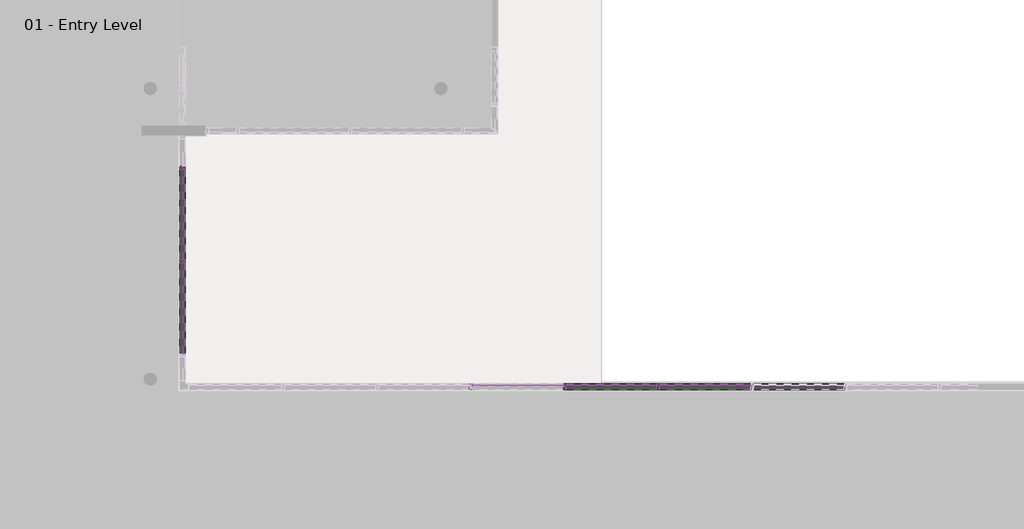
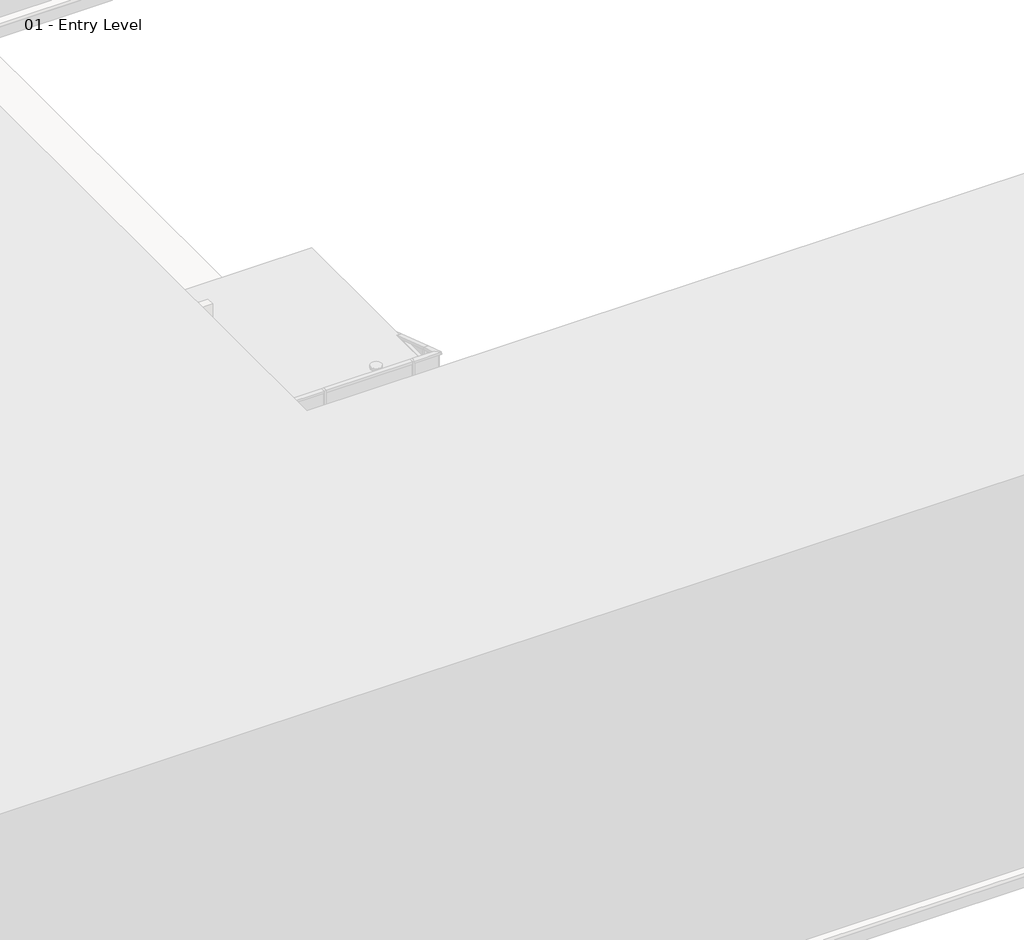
# One storey, part 10 of 35: 87 members, 45 plates.
"""IFC4 building model written with IfcOpenShell, lengths in millimetres."""

from ifc_helpers import new_model, si_unit, origin, place, context, project, spatial, transform, mapped, element, save
from components import member_2b49869a, member_391b434c, member_9e90ae50, member_e5d39754, system_panel_glazed_1b9d6098, system_panel_glazed_70da479d

model = new_model("IFC4")

# Units and contexts
model_context = context("Model", 3, world=origin())
ifc_project = project(units=[si_unit("LENGTHUNIT", "METRE", prefix="MILLI")], contexts=[model_context])

# Site, building, storey
site = spatial("IfcSite", under=ifc_project)
building = spatial("IfcBuilding", under=site)
storey = spatial("IfcBuildingStorey", under=building, Name="01 - Entry Level", Elevation=0.0)

# Members
placement = place(None, origin())
member_shape = member_2b49869a(model_context)
element("IfcMember", 1, ObjectType="Rectangular Mullion : 2.5\" x 5\" rectangular", at=placement, inside=storey, context=model_context, shape_type="MappedRepresentation", body=[
    mapped(member_shape, transform((27496.4207476, 11001.3, 9753.6), x_axis=(-1.0, 0.0, 0.0), y_axis=(0.0, 1.0, 0.0), z_axis=(0.0, 0.0, -1.0))),
])
element("IfcMember", 2, ObjectType="Rectangular Mullion : 2.5\" x 5\" rectangular", at=placement, inside=storey, context=model_context, shape_type="MappedRepresentation", body=[
    mapped(member_shape, transform((25464.4207476, 11001.3, 9753.6), x_axis=(-1.0, 0.0, 0.0), y_axis=(0.0, 1.0, 0.0), z_axis=(0.0, 0.0, -1.0))),
])
element("IfcMember", 3, ObjectType="Rectangular Mullion : 2.5\" x 5\" rectangular", at=placement, inside=storey, context=model_context, shape_type="MappedRepresentation", body=[
    mapped(member_shape, transform((23432.4207476, 11001.3, 9753.6), x_axis=(-1.0, 0.0, 0.0), y_axis=(0.0, 1.0, 0.0), z_axis=(0.0, 0.0, -1.0))),
])
element("IfcMember", 4, ObjectType="Rectangular Mullion : 2.5\" x 5\" rectangular", at=placement, inside=storey, context=model_context, shape_type="MappedRepresentation", body=[
    mapped(member_shape, transform((17184.0207476, 13719.1, 9753.6), x_axis=(0.0, 1.0, 0.0), y_axis=(1.0, 0.0, 0.0), z_axis=(0.0, 0.0, -1.0))),
])
element("IfcMember", 5, ObjectType="Rectangular Mullion : 2.5\" x 5\" rectangular", at=placement, inside=storey, context=model_context, shape_type="MappedRepresentation", body=[
    mapped(member_shape, transform((17184.0207476, 15751.1, 9753.6), x_axis=(0.0, 1.0, 0.0), y_axis=(1.0, 0.0, 0.0), z_axis=(0.0, 0.0, -1.0))),
])
member_2_shape = member_391b434c(model_context)
element("IfcMember", 6, ObjectType="Rectangular Mullion : 2.5\" x 5\" rectangular", at=placement, inside=storey, context=model_context, shape_type="MappedRepresentation", body=[
    mapped(member_2_shape, transform((29560.1707476, 11001.3, 10972.8), x_axis=(0.0, 0.0, 1.0), y_axis=(0.0, 1.0, 0.0), z_axis=(-1.0, 0.0, 0.0))),
])
element("IfcMember", 7, ObjectType="Rectangular Mullion : 2.5\" x 5\" rectangular", at=placement, inside=storey, context=model_context, shape_type="MappedRepresentation", body=[
    mapped(member_2_shape, transform((27528.1707476, 11001.3, 10972.8), x_axis=(0.0, 0.0, 1.0), y_axis=(0.0, 1.0, 0.0), z_axis=(-1.0, 0.0, 0.0))),
])
element("IfcMember", 8, ObjectType="Rectangular Mullion : 2.5\" x 5\" rectangular", at=placement, inside=storey, context=model_context, shape_type="MappedRepresentation", body=[
    mapped(member_2_shape, transform((25496.1707476, 11001.3, 10972.8), x_axis=(0.0, 0.0, 1.0), y_axis=(0.0, 1.0, 0.0), z_axis=(-1.0, 0.0, 0.0))),
])
element("IfcMember", 9, ObjectType="Rectangular Mullion : 2.5\" x 5\" rectangular", at=placement, inside=storey, context=model_context, shape_type="MappedRepresentation", body=[
    mapped(member_2_shape, transform((17184.0207476, 13687.35, 10972.8), x_axis=(0.0, 0.0, 1.0), y_axis=(1.0, 0.0, 0.0), z_axis=(0.0, 1.0, 0.0))),
])
element("IfcMember", 10, ObjectType="Rectangular Mullion : 2.5\" x 5\" rectangular", at=placement, inside=storey, context=model_context, shape_type="MappedRepresentation", body=[
    mapped(member_2_shape, transform((17184.0207476, 15719.35, 10972.8), x_axis=(0.0, 0.0, 1.0), y_axis=(1.0, 0.0, 0.0), z_axis=(0.0, 1.0, 0.0))),
])
element("IfcMember", 11, ObjectType="Rectangular Mullion : 2.5\" x 5\" rectangular", at=placement, inside=storey, context=model_context, shape_type="MappedRepresentation", body=[
    mapped(member_2_shape, transform((29496.6707476, 11001.3, 0.0), x_axis=(0.0, 0.0, -1.0), y_axis=(0.0, 1.0, 0.0), z_axis=(1.0, 0.0, 0.0))),
])
element("IfcMember", 12, ObjectType="Rectangular Mullion : 2.5\" x 5\" rectangular", at=placement, inside=storey, context=model_context, shape_type="MappedRepresentation", body=[
    mapped(member_2_shape, transform((27464.6707476, 11001.3, 0.0), x_axis=(0.0, 0.0, -1.0), y_axis=(0.0, 1.0, 0.0), z_axis=(1.0, 0.0, 0.0))),
])
element("IfcMember", 13, ObjectType="Rectangular Mullion : 2.5\" x 5\" rectangular", at=placement, inside=storey, context=model_context, shape_type="MappedRepresentation", body=[
    mapped(member_2_shape, transform((25432.6707476, 11001.3, 0.0), x_axis=(0.0, 0.0, -1.0), y_axis=(0.0, 1.0, 0.0), z_axis=(1.0, 0.0, 0.0))),
])
element("IfcMember", 14, ObjectType="Rectangular Mullion : 2.5\" x 5\" rectangular", at=placement, inside=storey, context=model_context, shape_type="MappedRepresentation", body=[
    mapped(member_2_shape, transform((17184.0207476, 13750.85, 0.0), x_axis=(0.0, 0.0, -1.0), y_axis=(1.0, 0.0, 0.0), z_axis=(0.0, -1.0, 0.0))),
])
member_3_shape = member_9e90ae50(model_context)
element("IfcMember", 15, ObjectType="Rectangular Mullion : 2.5\" x 5\" rectangular", at=placement, inside=storey, context=model_context, shape_type="MappedRepresentation", body=[
    mapped(member_3_shape, transform((29560.1707476, 11001.3, 1219.2), x_axis=(0.0, 0.0, 1.0), y_axis=(0.0, 1.0, 0.0), z_axis=(-1.0, 0.0, 0.0))),
])
element("IfcMember", 16, ObjectType="Rectangular Mullion : 2.5\" x 5\" rectangular", at=placement, inside=storey, context=model_context, shape_type="MappedRepresentation", body=[
    mapped(member_3_shape, transform((27528.1707476, 11001.3, 1219.2), x_axis=(0.0, 0.0, 1.0), y_axis=(0.0, 1.0, 0.0), z_axis=(-1.0, 0.0, 0.0))),
])
element("IfcMember", 17, ObjectType="Rectangular Mullion : 2.5\" x 5\" rectangular", at=placement, inside=storey, context=model_context, shape_type="MappedRepresentation", body=[
    mapped(member_3_shape, transform((25496.1707476, 11001.3, 1219.2), x_axis=(0.0, 0.0, 1.0), y_axis=(0.0, 1.0, 0.0), z_axis=(-1.0, 0.0, 0.0))),
])
element("IfcMember", 18, ObjectType="Rectangular Mullion : 2.5\" x 5\" rectangular", at=placement, inside=storey, context=model_context, shape_type="MappedRepresentation", body=[
    mapped(member_3_shape, transform((29560.1707476, 11001.3, 2438.4), x_axis=(0.0, 0.0, 1.0), y_axis=(0.0, 1.0, 0.0), z_axis=(-1.0, 0.0, 0.0))),
])
element("IfcMember", 19, ObjectType="Rectangular Mullion : 2.5\" x 5\" rectangular", at=placement, inside=storey, context=model_context, shape_type="MappedRepresentation", body=[
    mapped(member_3_shape, transform((27528.1707476, 11001.3, 2438.4), x_axis=(0.0, 0.0, 1.0), y_axis=(0.0, 1.0, 0.0), z_axis=(-1.0, 0.0, 0.0))),
])
element("IfcMember", 20, ObjectType="Rectangular Mullion : 2.5\" x 5\" rectangular", at=placement, inside=storey, context=model_context, shape_type="MappedRepresentation", body=[
    mapped(member_3_shape, transform((25496.1707476, 11001.3, 2438.4), x_axis=(0.0, 0.0, 1.0), y_axis=(0.0, 1.0, 0.0), z_axis=(-1.0, 0.0, 0.0))),
])
element("IfcMember", 21, ObjectType="Rectangular Mullion : 2.5\" x 5\" rectangular", at=placement, inside=storey, context=model_context, shape_type="MappedRepresentation", body=[
    mapped(member_3_shape, transform((29560.1707476, 11001.3, 3657.6), x_axis=(0.0, 0.0, 1.0), y_axis=(0.0, 1.0, 0.0), z_axis=(-1.0, 0.0, 0.0))),
])
element("IfcMember", 22, ObjectType="Rectangular Mullion : 2.5\" x 5\" rectangular", at=placement, inside=storey, context=model_context, shape_type="MappedRepresentation", body=[
    mapped(member_3_shape, transform((27528.1707476, 11001.3, 3657.6), x_axis=(0.0, 0.0, 1.0), y_axis=(0.0, 1.0, 0.0), z_axis=(-1.0, 0.0, 0.0))),
])
element("IfcMember", 23, ObjectType="Rectangular Mullion : 2.5\" x 5\" rectangular", at=placement, inside=storey, context=model_context, shape_type="MappedRepresentation", body=[
    mapped(member_3_shape, transform((25496.1707476, 11001.3, 3657.6), x_axis=(0.0, 0.0, 1.0), y_axis=(0.0, 1.0, 0.0), z_axis=(-1.0, 0.0, 0.0))),
])
element("IfcMember", 24, ObjectType="Rectangular Mullion : 2.5\" x 5\" rectangular", at=placement, inside=storey, context=model_context, shape_type="MappedRepresentation", body=[
    mapped(member_3_shape, transform((29560.1707476, 11001.3, 4876.8), x_axis=(0.0, 0.0, 1.0), y_axis=(0.0, 1.0, 0.0), z_axis=(-1.0, 0.0, 0.0))),
])
element("IfcMember", 25, ObjectType="Rectangular Mullion : 2.5\" x 5\" rectangular", at=placement, inside=storey, context=model_context, shape_type="MappedRepresentation", body=[
    mapped(member_3_shape, transform((27528.1707476, 11001.3, 4876.8), x_axis=(0.0, 0.0, 1.0), y_axis=(0.0, 1.0, 0.0), z_axis=(-1.0, 0.0, 0.0))),
])
element("IfcMember", 26, ObjectType="Rectangular Mullion : 2.5\" x 5\" rectangular", at=placement, inside=storey, context=model_context, shape_type="MappedRepresentation", body=[
    mapped(member_3_shape, transform((25496.1707476, 11001.3, 4876.8), x_axis=(0.0, 0.0, 1.0), y_axis=(0.0, 1.0, 0.0), z_axis=(-1.0, 0.0, 0.0))),
])
element("IfcMember", 27, ObjectType="Rectangular Mullion : 2.5\" x 5\" rectangular", at=placement, inside=storey, context=model_context, shape_type="MappedRepresentation", body=[
    mapped(member_3_shape, transform((29560.1707476, 11001.3, 6096.0), x_axis=(0.0, 0.0, 1.0), y_axis=(0.0, 1.0, 0.0), z_axis=(-1.0, 0.0, 0.0))),
])
element("IfcMember", 28, ObjectType="Rectangular Mullion : 2.5\" x 5\" rectangular", at=placement, inside=storey, context=model_context, shape_type="MappedRepresentation", body=[
    mapped(member_3_shape, transform((27528.1707476, 11001.3, 6096.0), x_axis=(0.0, 0.0, 1.0), y_axis=(0.0, 1.0, 0.0), z_axis=(-1.0, 0.0, 0.0))),
])
element("IfcMember", 29, ObjectType="Rectangular Mullion : 2.5\" x 5\" rectangular", at=placement, inside=storey, context=model_context, shape_type="MappedRepresentation", body=[
    mapped(member_3_shape, transform((25496.1707476, 11001.3, 6096.0), x_axis=(0.0, 0.0, 1.0), y_axis=(0.0, 1.0, 0.0), z_axis=(-1.0, 0.0, 0.0))),
])
element("IfcMember", 30, ObjectType="Rectangular Mullion : 2.5\" x 5\" rectangular", at=placement, inside=storey, context=model_context, shape_type="MappedRepresentation", body=[
    mapped(member_3_shape, transform((29560.1707476, 11001.3, 7315.2), x_axis=(0.0, 0.0, 1.0), y_axis=(0.0, 1.0, 0.0), z_axis=(-1.0, 0.0, 0.0))),
])
element("IfcMember", 31, ObjectType="Rectangular Mullion : 2.5\" x 5\" rectangular", at=placement, inside=storey, context=model_context, shape_type="MappedRepresentation", body=[
    mapped(member_3_shape, transform((27528.1707476, 11001.3, 7315.2), x_axis=(0.0, 0.0, 1.0), y_axis=(0.0, 1.0, 0.0), z_axis=(-1.0, 0.0, 0.0))),
])
element("IfcMember", 32, ObjectType="Rectangular Mullion : 2.5\" x 5\" rectangular", at=placement, inside=storey, context=model_context, shape_type="MappedRepresentation", body=[
    mapped(member_3_shape, transform((25496.1707476, 11001.3, 7315.2), x_axis=(0.0, 0.0, 1.0), y_axis=(0.0, 1.0, 0.0), z_axis=(-1.0, 0.0, 0.0))),
])
element("IfcMember", 33, ObjectType="Rectangular Mullion : 2.5\" x 5\" rectangular", at=placement, inside=storey, context=model_context, shape_type="MappedRepresentation", body=[
    mapped(member_3_shape, transform((29560.1707476, 11001.3, 8534.4), x_axis=(0.0, 0.0, 1.0), y_axis=(0.0, 1.0, 0.0), z_axis=(-1.0, 0.0, 0.0))),
])
element("IfcMember", 34, ObjectType="Rectangular Mullion : 2.5\" x 5\" rectangular", at=placement, inside=storey, context=model_context, shape_type="MappedRepresentation", body=[
    mapped(member_3_shape, transform((27528.1707476, 11001.3, 8534.4), x_axis=(0.0, 0.0, 1.0), y_axis=(0.0, 1.0, 0.0), z_axis=(-1.0, 0.0, 0.0))),
])
element("IfcMember", 35, ObjectType="Rectangular Mullion : 2.5\" x 5\" rectangular", at=placement, inside=storey, context=model_context, shape_type="MappedRepresentation", body=[
    mapped(member_3_shape, transform((25496.1707476, 11001.3, 8534.4), x_axis=(0.0, 0.0, 1.0), y_axis=(0.0, 1.0, 0.0), z_axis=(-1.0, 0.0, 0.0))),
])
element("IfcMember", 36, ObjectType="Rectangular Mullion : 2.5\" x 5\" rectangular", at=placement, inside=storey, context=model_context, shape_type="MappedRepresentation", body=[
    mapped(member_3_shape, transform((27528.1707476, 11001.3, 9753.6), x_axis=(0.0, 0.0, 1.0), y_axis=(0.0, 1.0, 0.0), z_axis=(-1.0, 0.0, 0.0))),
])
element("IfcMember", 37, ObjectType="Rectangular Mullion : 2.5\" x 5\" rectangular", at=placement, inside=storey, context=model_context, shape_type="MappedRepresentation", body=[
    mapped(member_3_shape, transform((25496.1707476, 11001.3, 9753.6), x_axis=(0.0, 0.0, 1.0), y_axis=(0.0, 1.0, 0.0), z_axis=(-1.0, 0.0, 0.0))),
])
element("IfcMember", 38, ObjectType="Rectangular Mullion : 2.5\" x 5\" rectangular", at=placement, inside=storey, context=model_context, shape_type="MappedRepresentation", body=[
    mapped(member_3_shape, transform((17184.0207476, 13687.35, 1219.2), x_axis=(0.0, 0.0, 1.0), y_axis=(1.0, 0.0, 0.0), z_axis=(0.0, 1.0, 0.0))),
])
element("IfcMember", 39, ObjectType="Rectangular Mullion : 2.5\" x 5\" rectangular", at=placement, inside=storey, context=model_context, shape_type="MappedRepresentation", body=[
    mapped(member_3_shape, transform((17184.0207476, 15719.35, 1219.2), x_axis=(0.0, 0.0, 1.0), y_axis=(1.0, 0.0, 0.0), z_axis=(0.0, 1.0, 0.0))),
])
element("IfcMember", 40, ObjectType="Rectangular Mullion : 2.5\" x 5\" rectangular", at=placement, inside=storey, context=model_context, shape_type="MappedRepresentation", body=[
    mapped(member_3_shape, transform((17184.0207476, 13687.35, 2438.4), x_axis=(0.0, 0.0, 1.0), y_axis=(1.0, 0.0, 0.0), z_axis=(0.0, 1.0, 0.0))),
])
element("IfcMember", 41, ObjectType="Rectangular Mullion : 2.5\" x 5\" rectangular", at=placement, inside=storey, context=model_context, shape_type="MappedRepresentation", body=[
    mapped(member_3_shape, transform((17184.0207476, 15719.35, 2438.4), x_axis=(0.0, 0.0, 1.0), y_axis=(1.0, 0.0, 0.0), z_axis=(0.0, 1.0, 0.0))),
])
element("IfcMember", 42, ObjectType="Rectangular Mullion : 2.5\" x 5\" rectangular", at=placement, inside=storey, context=model_context, shape_type="MappedRepresentation", body=[
    mapped(member_3_shape, transform((17184.0207476, 13687.35, 3657.6), x_axis=(0.0, 0.0, 1.0), y_axis=(1.0, 0.0, 0.0), z_axis=(0.0, 1.0, 0.0))),
])
element("IfcMember", 43, ObjectType="Rectangular Mullion : 2.5\" x 5\" rectangular", at=placement, inside=storey, context=model_context, shape_type="MappedRepresentation", body=[
    mapped(member_3_shape, transform((17184.0207476, 15719.35, 3657.6), x_axis=(0.0, 0.0, 1.0), y_axis=(1.0, 0.0, 0.0), z_axis=(0.0, 1.0, 0.0))),
])
element("IfcMember", 44, ObjectType="Rectangular Mullion : 2.5\" x 5\" rectangular", at=placement, inside=storey, context=model_context, shape_type="MappedRepresentation", body=[
    mapped(member_3_shape, transform((17184.0207476, 13687.35, 4876.8), x_axis=(0.0, 0.0, 1.0), y_axis=(1.0, 0.0, 0.0), z_axis=(0.0, 1.0, 0.0))),
])
element("IfcMember", 45, ObjectType="Rectangular Mullion : 2.5\" x 5\" rectangular", at=placement, inside=storey, context=model_context, shape_type="MappedRepresentation", body=[
    mapped(member_3_shape, transform((17184.0207476, 15719.35, 4876.8), x_axis=(0.0, 0.0, 1.0), y_axis=(1.0, 0.0, 0.0), z_axis=(0.0, 1.0, 0.0))),
])
element("IfcMember", 46, ObjectType="Rectangular Mullion : 2.5\" x 5\" rectangular", at=placement, inside=storey, context=model_context, shape_type="MappedRepresentation", body=[
    mapped(member_3_shape, transform((17184.0207476, 13687.35, 6096.0), x_axis=(0.0, 0.0, 1.0), y_axis=(1.0, 0.0, 0.0), z_axis=(0.0, 1.0, 0.0))),
])
element("IfcMember", 47, ObjectType="Rectangular Mullion : 2.5\" x 5\" rectangular", at=placement, inside=storey, context=model_context, shape_type="MappedRepresentation", body=[
    mapped(member_3_shape, transform((17184.0207476, 15719.35, 6096.0), x_axis=(0.0, 0.0, 1.0), y_axis=(1.0, 0.0, 0.0), z_axis=(0.0, 1.0, 0.0))),
])
element("IfcMember", 48, ObjectType="Rectangular Mullion : 2.5\" x 5\" rectangular", at=placement, inside=storey, context=model_context, shape_type="MappedRepresentation", body=[
    mapped(member_3_shape, transform((17184.0207476, 13687.35, 7315.2), x_axis=(0.0, 0.0, 1.0), y_axis=(1.0, 0.0, 0.0), z_axis=(0.0, 1.0, 0.0))),
])
element("IfcMember", 49, ObjectType="Rectangular Mullion : 2.5\" x 5\" rectangular", at=placement, inside=storey, context=model_context, shape_type="MappedRepresentation", body=[
    mapped(member_3_shape, transform((17184.0207476, 15719.35, 7315.2), x_axis=(0.0, 0.0, 1.0), y_axis=(1.0, 0.0, 0.0), z_axis=(0.0, 1.0, 0.0))),
])
element("IfcMember", 50, ObjectType="Rectangular Mullion : 2.5\" x 5\" rectangular", at=placement, inside=storey, context=model_context, shape_type="MappedRepresentation", body=[
    mapped(member_3_shape, transform((17184.0207476, 13687.35, 8534.4), x_axis=(0.0, 0.0, 1.0), y_axis=(1.0, 0.0, 0.0), z_axis=(0.0, 1.0, 0.0))),
])
element("IfcMember", 51, ObjectType="Rectangular Mullion : 2.5\" x 5\" rectangular", at=placement, inside=storey, context=model_context, shape_type="MappedRepresentation", body=[
    mapped(member_3_shape, transform((17184.0207476, 15719.35, 8534.4), x_axis=(0.0, 0.0, 1.0), y_axis=(1.0, 0.0, 0.0), z_axis=(0.0, 1.0, 0.0))),
])
element("IfcMember", 52, ObjectType="Rectangular Mullion : 2.5\" x 5\" rectangular", at=placement, inside=storey, context=model_context, shape_type="MappedRepresentation", body=[
    mapped(member_3_shape, transform((17184.0207476, 13687.35, 9753.6), x_axis=(0.0, 0.0, 1.0), y_axis=(1.0, 0.0, 0.0), z_axis=(0.0, 1.0, 0.0))),
])
element("IfcMember", 53, ObjectType="Rectangular Mullion : 2.5\" x 5\" rectangular", at=placement, inside=storey, context=model_context, shape_type="MappedRepresentation", body=[
    mapped(member_3_shape, transform((17184.0207476, 15719.35, 9753.6), x_axis=(0.0, 0.0, 1.0), y_axis=(1.0, 0.0, 0.0), z_axis=(0.0, 1.0, 0.0))),
])
element("IfcMember", 54, ObjectType="Rectangular Mullion : 2.5\" x 5\" rectangular", at=placement, inside=storey, context=model_context, shape_type="MappedRepresentation", body=[
    mapped(member_shape, transform((27496.4207476, 11001.3, 0.0), x_axis=(-1.0, 0.0, 0.0), y_axis=(0.0, 1.0, 0.0), z_axis=(0.0, 0.0, -1.0))),
])
element("IfcMember", 55, ObjectType="Rectangular Mullion : 2.5\" x 5\" rectangular", at=placement, inside=storey, context=model_context, shape_type="MappedRepresentation", body=[
    mapped(member_shape, transform((25464.4207476, 11001.3, 0.0), x_axis=(-1.0, 0.0, 0.0), y_axis=(0.0, 1.0, 0.0), z_axis=(0.0, 0.0, -1.0))),
])
element("IfcMember", 56, ObjectType="Rectangular Mullion : 2.5\" x 5\" rectangular", at=placement, inside=storey, context=model_context, shape_type="MappedRepresentation", body=[
    mapped(member_shape, transform((17184.0207476, 13719.1, 0.0), x_axis=(0.0, 1.0, 0.0), y_axis=(1.0, 0.0, 0.0), z_axis=(0.0, 0.0, -1.0))),
])
element("IfcMember", 57, ObjectType="Rectangular Mullion : 2.5\" x 5\" rectangular", at=placement, inside=storey, context=model_context, shape_type="MappedRepresentation", body=[
    mapped(member_shape, transform((17184.0207476, 15751.1, 0.0), x_axis=(0.0, 1.0, 0.0), y_axis=(1.0, 0.0, 0.0), z_axis=(0.0, 0.0, -1.0))),
])
element("IfcMember", 58, ObjectType="Rectangular Mullion : 2.5\" x 5\" rectangular", at=placement, inside=storey, context=model_context, shape_type="MappedRepresentation", body=[
    mapped(member_shape, transform((27496.4207476, 11001.3, 1219.2), x_axis=(-1.0, 0.0, 0.0), y_axis=(0.0, 1.0, 0.0), z_axis=(0.0, 0.0, -1.0))),
])
element("IfcMember", 59, ObjectType="Rectangular Mullion : 2.5\" x 5\" rectangular", at=placement, inside=storey, context=model_context, shape_type="MappedRepresentation", body=[
    mapped(member_shape, transform((25464.4207476, 11001.3, 1219.2), x_axis=(-1.0, 0.0, 0.0), y_axis=(0.0, 1.0, 0.0), z_axis=(0.0, 0.0, -1.0))),
])
element("IfcMember", 60, ObjectType="Rectangular Mullion : 2.5\" x 5\" rectangular", at=placement, inside=storey, context=model_context, shape_type="MappedRepresentation", body=[
    mapped(member_shape, transform((27496.4207476, 11001.3, 2438.4), x_axis=(-1.0, 0.0, 0.0), y_axis=(0.0, 1.0, 0.0), z_axis=(0.0, 0.0, -1.0))),
])
element("IfcMember", 61, ObjectType="Rectangular Mullion : 2.5\" x 5\" rectangular", at=placement, inside=storey, context=model_context, shape_type="MappedRepresentation", body=[
    mapped(member_shape, transform((25464.4207476, 11001.3, 2438.4), x_axis=(-1.0, 0.0, 0.0), y_axis=(0.0, 1.0, 0.0), z_axis=(0.0, 0.0, -1.0))),
])
element("IfcMember", 62, ObjectType="Rectangular Mullion : 2.5\" x 5\" rectangular", at=placement, inside=storey, context=model_context, shape_type="MappedRepresentation", body=[
    mapped(member_shape, transform((27496.4207476, 11001.3, 3657.6), x_axis=(-1.0, 0.0, 0.0), y_axis=(0.0, 1.0, 0.0), z_axis=(0.0, 0.0, -1.0))),
])
element("IfcMember", 63, ObjectType="Rectangular Mullion : 2.5\" x 5\" rectangular", at=placement, inside=storey, context=model_context, shape_type="MappedRepresentation", body=[
    mapped(member_shape, transform((25464.4207476, 11001.3, 3657.6), x_axis=(-1.0, 0.0, 0.0), y_axis=(0.0, 1.0, 0.0), z_axis=(0.0, 0.0, -1.0))),
])
element("IfcMember", 64, ObjectType="Rectangular Mullion : 2.5\" x 5\" rectangular", at=placement, inside=storey, context=model_context, shape_type="MappedRepresentation", body=[
    mapped(member_shape, transform((27496.4207476, 11001.3, 4876.8), x_axis=(-1.0, 0.0, 0.0), y_axis=(0.0, 1.0, 0.0), z_axis=(0.0, 0.0, -1.0))),
])
element("IfcMember", 65, ObjectType="Rectangular Mullion : 2.5\" x 5\" rectangular", at=placement, inside=storey, context=model_context, shape_type="MappedRepresentation", body=[
    mapped(member_shape, transform((25464.4207476, 11001.3, 4876.8), x_axis=(-1.0, 0.0, 0.0), y_axis=(0.0, 1.0, 0.0), z_axis=(0.0, 0.0, -1.0))),
])
element("IfcMember", 66, ObjectType="Rectangular Mullion : 2.5\" x 5\" rectangular", at=placement, inside=storey, context=model_context, shape_type="MappedRepresentation", body=[
    mapped(member_shape, transform((27496.4207476, 11001.3, 6096.0), x_axis=(-1.0, 0.0, 0.0), y_axis=(0.0, 1.0, 0.0), z_axis=(0.0, 0.0, -1.0))),
])
element("IfcMember", 67, ObjectType="Rectangular Mullion : 2.5\" x 5\" rectangular", at=placement, inside=storey, context=model_context, shape_type="MappedRepresentation", body=[
    mapped(member_shape, transform((25464.4207476, 11001.3, 6096.0), x_axis=(-1.0, 0.0, 0.0), y_axis=(0.0, 1.0, 0.0), z_axis=(0.0, 0.0, -1.0))),
])
element("IfcMember", 68, ObjectType="Rectangular Mullion : 2.5\" x 5\" rectangular", at=placement, inside=storey, context=model_context, shape_type="MappedRepresentation", body=[
    mapped(member_shape, transform((27496.4207476, 11001.3, 7315.2), x_axis=(-1.0, 0.0, 0.0), y_axis=(0.0, 1.0, 0.0), z_axis=(0.0, 0.0, -1.0))),
])
element("IfcMember", 69, ObjectType="Rectangular Mullion : 2.5\" x 5\" rectangular", at=placement, inside=storey, context=model_context, shape_type="MappedRepresentation", body=[
    mapped(member_shape, transform((25464.4207476, 11001.3, 7315.2), x_axis=(-1.0, 0.0, 0.0), y_axis=(0.0, 1.0, 0.0), z_axis=(0.0, 0.0, -1.0))),
])
element("IfcMember", 70, ObjectType="Rectangular Mullion : 2.5\" x 5\" rectangular", at=placement, inside=storey, context=model_context, shape_type="MappedRepresentation", body=[
    mapped(member_shape, transform((27496.4207476, 11001.3, 8534.4), x_axis=(-1.0, 0.0, 0.0), y_axis=(0.0, 1.0, 0.0), z_axis=(0.0, 0.0, -1.0))),
])
element("IfcMember", 71, ObjectType="Rectangular Mullion : 2.5\" x 5\" rectangular", at=placement, inside=storey, context=model_context, shape_type="MappedRepresentation", body=[
    mapped(member_shape, transform((25464.4207476, 11001.3, 8534.4), x_axis=(-1.0, 0.0, 0.0), y_axis=(0.0, 1.0, 0.0), z_axis=(0.0, 0.0, -1.0))),
])
element("IfcMember", 72, ObjectType="Rectangular Mullion : 2.5\" x 5\" rectangular", at=placement, inside=storey, context=model_context, shape_type="MappedRepresentation", body=[
    mapped(member_shape, transform((23432.4207476, 11001.3, 8534.4), x_axis=(-1.0, 0.0, 0.0), y_axis=(0.0, 1.0, 0.0), z_axis=(0.0, 0.0, -1.0))),
])
element("IfcMember", 73, ObjectType="Rectangular Mullion : 2.5\" x 5\" rectangular", at=placement, inside=storey, context=model_context, shape_type="MappedRepresentation", body=[
    mapped(member_shape, transform((17184.0207476, 13719.1, 1219.2), x_axis=(0.0, 1.0, 0.0), y_axis=(1.0, 0.0, 0.0), z_axis=(0.0, 0.0, -1.0))),
])
element("IfcMember", 74, ObjectType="Rectangular Mullion : 2.5\" x 5\" rectangular", at=placement, inside=storey, context=model_context, shape_type="MappedRepresentation", body=[
    mapped(member_shape, transform((17184.0207476, 13719.1, 2438.4), x_axis=(0.0, 1.0, 0.0), y_axis=(1.0, 0.0, 0.0), z_axis=(0.0, 0.0, -1.0))),
])
element("IfcMember", 75, ObjectType="Rectangular Mullion : 2.5\" x 5\" rectangular", at=placement, inside=storey, context=model_context, shape_type="MappedRepresentation", body=[
    mapped(member_shape, transform((17184.0207476, 13719.1, 3657.6), x_axis=(0.0, 1.0, 0.0), y_axis=(1.0, 0.0, 0.0), z_axis=(0.0, 0.0, -1.0))),
])
element("IfcMember", 76, ObjectType="Rectangular Mullion : 2.5\" x 5\" rectangular", at=placement, inside=storey, context=model_context, shape_type="MappedRepresentation", body=[
    mapped(member_shape, transform((17184.0207476, 13719.1, 4876.8), x_axis=(0.0, 1.0, 0.0), y_axis=(1.0, 0.0, 0.0), z_axis=(0.0, 0.0, -1.0))),
])
element("IfcMember", 77, ObjectType="Rectangular Mullion : 2.5\" x 5\" rectangular", at=placement, inside=storey, context=model_context, shape_type="MappedRepresentation", body=[
    mapped(member_shape, transform((17184.0207476, 13719.1, 6096.0), x_axis=(0.0, 1.0, 0.0), y_axis=(1.0, 0.0, 0.0), z_axis=(0.0, 0.0, -1.0))),
])
element("IfcMember", 78, ObjectType="Rectangular Mullion : 2.5\" x 5\" rectangular", at=placement, inside=storey, context=model_context, shape_type="MappedRepresentation", body=[
    mapped(member_shape, transform((17184.0207476, 13719.1, 7315.2), x_axis=(0.0, 1.0, 0.0), y_axis=(1.0, 0.0, 0.0), z_axis=(0.0, 0.0, -1.0))),
])
element("IfcMember", 79, ObjectType="Rectangular Mullion : 2.5\" x 5\" rectangular", at=placement, inside=storey, context=model_context, shape_type="MappedRepresentation", body=[
    mapped(member_shape, transform((17184.0207476, 13719.1, 8534.4), x_axis=(0.0, 1.0, 0.0), y_axis=(1.0, 0.0, 0.0), z_axis=(0.0, 0.0, -1.0))),
])
element("IfcMember", 80, ObjectType="Rectangular Mullion : 2.5\" x 5\" rectangular", at=placement, inside=storey, context=model_context, shape_type="MappedRepresentation", body=[
    mapped(member_shape, transform((17184.0207476, 15751.1, 1219.2), x_axis=(0.0, 1.0, 0.0), y_axis=(1.0, 0.0, 0.0), z_axis=(0.0, 0.0, -1.0))),
])
element("IfcMember", 81, ObjectType="Rectangular Mullion : 2.5\" x 5\" rectangular", at=placement, inside=storey, context=model_context, shape_type="MappedRepresentation", body=[
    mapped(member_shape, transform((17184.0207476, 15751.1, 2438.4), x_axis=(0.0, 1.0, 0.0), y_axis=(1.0, 0.0, 0.0), z_axis=(0.0, 0.0, -1.0))),
])
element("IfcMember", 82, ObjectType="Rectangular Mullion : 2.5\" x 5\" rectangular", at=placement, inside=storey, context=model_context, shape_type="MappedRepresentation", body=[
    mapped(member_shape, transform((17184.0207476, 15751.1, 3657.6), x_axis=(0.0, 1.0, 0.0), y_axis=(1.0, 0.0, 0.0), z_axis=(0.0, 0.0, -1.0))),
])
element("IfcMember", 83, ObjectType="Rectangular Mullion : 2.5\" x 5\" rectangular", at=placement, inside=storey, context=model_context, shape_type="MappedRepresentation", body=[
    mapped(member_shape, transform((17184.0207476, 15751.1, 4876.8), x_axis=(0.0, 1.0, 0.0), y_axis=(1.0, 0.0, 0.0), z_axis=(0.0, 0.0, -1.0))),
])
element("IfcMember", 84, ObjectType="Rectangular Mullion : 2.5\" x 5\" rectangular", at=placement, inside=storey, context=model_context, shape_type="MappedRepresentation", body=[
    mapped(member_shape, transform((17184.0207476, 15751.1, 6096.0), x_axis=(0.0, 1.0, 0.0), y_axis=(1.0, 0.0, 0.0), z_axis=(0.0, 0.0, -1.0))),
])
element("IfcMember", 85, ObjectType="Rectangular Mullion : 2.5\" x 5\" rectangular", at=placement, inside=storey, context=model_context, shape_type="MappedRepresentation", body=[
    mapped(member_shape, transform((17184.0207476, 15751.1, 7315.2), x_axis=(0.0, 1.0, 0.0), y_axis=(1.0, 0.0, 0.0), z_axis=(0.0, 0.0, -1.0))),
])
element("IfcMember", 86, ObjectType="Rectangular Mullion : 2.5\" x 5\" rectangular", at=placement, inside=storey, context=model_context, shape_type="MappedRepresentation", body=[
    mapped(member_shape, transform((17184.0207476, 15751.1, 8534.4), x_axis=(0.0, 1.0, 0.0), y_axis=(1.0, 0.0, 0.0), z_axis=(0.0, 0.0, -1.0))),
])
member_4_shape = member_e5d39754(model_context)
element("IfcMember", 87, ObjectType="Rectangular Mullion : 2.5\" x 5\" rectangular", at=placement, inside=storey, context=model_context, shape_type="MappedRepresentation", body=[
    mapped(member_4_shape, transform((17184.0207476, 15782.85, 0.0), x_axis=(0.0, 0.0, -1.0), y_axis=(1.0, 0.0, 0.0), z_axis=(0.0, -1.0, 0.0))),
])

# Plates
system_panel_glazed_shape = system_panel_glazed_1b9d6098(model_context)
element("IfcPlate", 88, ObjectType="System Panel : Glazed", at=placement, inside=storey, context=model_context, shape_type="MappedRepresentation", body=[
    mapped(system_panel_glazed_shape, transform((28512.4207476, 11001.3, 63.5), x_axis=(-1.0, 0.0, 0.0), y_axis=(0.0, -1.0, 0.0), z_axis=(0.0, 0.0, 1.0))),
])
element("IfcPlate", 89, ObjectType="System Panel : Glazed", at=placement, inside=storey, context=model_context, shape_type="MappedRepresentation", body=[
    mapped(system_panel_glazed_shape, transform((26480.4207476, 11001.3, 63.5), x_axis=(-1.0, 0.0, 0.0), y_axis=(0.0, -1.0, 0.0), z_axis=(0.0, 0.0, 1.0))),
])
element("IfcPlate", 90, ObjectType="System Panel : Glazed", at=placement, inside=storey, context=model_context, shape_type="MappedRepresentation", body=[
    mapped(system_panel_glazed_shape, transform((24448.4207476, 11001.3, 63.5), x_axis=(-1.0, 0.0, 0.0), y_axis=(0.0, -1.0, 0.0), z_axis=(0.0, 0.0, 1.0))),
])
element("IfcPlate", 91, ObjectType="System Panel : Glazed", at=placement, inside=storey, context=model_context, shape_type="MappedRepresentation", body=[
    mapped(system_panel_glazed_shape, transform((28512.4207476, 11001.3, 9785.35), x_axis=(-1.0, 0.0, 0.0), y_axis=(0.0, -1.0, 0.0), z_axis=(0.0, 0.0, 1.0))),
])
element("IfcPlate", 92, ObjectType="System Panel : Glazed", at=placement, inside=storey, context=model_context, shape_type="MappedRepresentation", body=[
    mapped(system_panel_glazed_shape, transform((26480.4207476, 11001.3, 9785.35), x_axis=(-1.0, 0.0, 0.0), y_axis=(0.0, -1.0, 0.0), z_axis=(0.0, 0.0, 1.0))),
])
element("IfcPlate", 93, ObjectType="System Panel : Glazed", at=placement, inside=storey, context=model_context, shape_type="MappedRepresentation", body=[
    mapped(system_panel_glazed_shape, transform((24448.4207476, 11001.3, 9785.35), x_axis=(-1.0, 0.0, 0.0), y_axis=(0.0, -1.0, 0.0), z_axis=(0.0, 0.0, 1.0))),
])
element("IfcPlate", 94, ObjectType="System Panel : Glazed", at=placement, inside=storey, context=model_context, shape_type="MappedRepresentation", body=[
    mapped(system_panel_glazed_shape, transform((17184.0207476, 12703.1, 63.5), x_axis=(0.0, 1.0, 0.0), y_axis=(-1.0, 0.0, 0.0), z_axis=(0.0, 0.0, 1.0))),
])
element("IfcPlate", 95, ObjectType="System Panel : Glazed", at=placement, inside=storey, context=model_context, shape_type="MappedRepresentation", body=[
    mapped(system_panel_glazed_shape, transform((17184.0207476, 14735.1, 63.5), x_axis=(0.0, 1.0, 0.0), y_axis=(-1.0, 0.0, 0.0), z_axis=(0.0, 0.0, 1.0))),
])
element("IfcPlate", 96, ObjectType="System Panel : Glazed", at=placement, inside=storey, context=model_context, shape_type="MappedRepresentation", body=[
    mapped(system_panel_glazed_shape, transform((17184.0207476, 12703.1, 9785.35), x_axis=(0.0, 1.0, 0.0), y_axis=(-1.0, 0.0, 0.0), z_axis=(0.0, 0.0, 1.0))),
])
element("IfcPlate", 97, ObjectType="System Panel : Glazed", at=placement, inside=storey, context=model_context, shape_type="MappedRepresentation", body=[
    mapped(system_panel_glazed_shape, transform((17184.0207476, 14735.1, 9785.35), x_axis=(0.0, 1.0, 0.0), y_axis=(-1.0, 0.0, 0.0), z_axis=(0.0, 0.0, 1.0))),
])
system_panel_glazed_2_shape = system_panel_glazed_70da479d(model_context)
element("IfcPlate", 98, ObjectType="System Panel : Glazed", at=placement, inside=storey, context=model_context, shape_type="MappedRepresentation", body=[
    mapped(system_panel_glazed_2_shape, transform((28512.4207476, 11001.3, 1250.95), x_axis=(-1.0, 0.0, 0.0), y_axis=(0.0, -1.0, 0.0), z_axis=(0.0, 0.0, 1.0))),
])
element("IfcPlate", 99, ObjectType="System Panel : Glazed", at=placement, inside=storey, context=model_context, shape_type="MappedRepresentation", body=[
    mapped(system_panel_glazed_2_shape, transform((26480.4207476, 11001.3, 1250.95), x_axis=(-1.0, 0.0, 0.0), y_axis=(0.0, -1.0, 0.0), z_axis=(0.0, 0.0, 1.0))),
])
element("IfcPlate", 100, ObjectType="System Panel : Glazed", at=placement, inside=storey, context=model_context, shape_type="MappedRepresentation", body=[
    mapped(system_panel_glazed_2_shape, transform((24448.4207476, 11001.3, 1250.95), x_axis=(-1.0, 0.0, 0.0), y_axis=(0.0, -1.0, 0.0), z_axis=(0.0, 0.0, 1.0))),
])
element("IfcPlate", 101, ObjectType="System Panel : Glazed", at=placement, inside=storey, context=model_context, shape_type="MappedRepresentation", body=[
    mapped(system_panel_glazed_2_shape, transform((28512.4207476, 11001.3, 2470.15), x_axis=(-1.0, 0.0, 0.0), y_axis=(0.0, -1.0, 0.0), z_axis=(0.0, 0.0, 1.0))),
])
element("IfcPlate", 102, ObjectType="System Panel : Glazed", at=placement, inside=storey, context=model_context, shape_type="MappedRepresentation", body=[
    mapped(system_panel_glazed_2_shape, transform((26480.4207476, 11001.3, 2470.15), x_axis=(-1.0, 0.0, 0.0), y_axis=(0.0, -1.0, 0.0), z_axis=(0.0, 0.0, 1.0))),
])
element("IfcPlate", 103, ObjectType="System Panel : Glazed", at=placement, inside=storey, context=model_context, shape_type="MappedRepresentation", body=[
    mapped(system_panel_glazed_2_shape, transform((24448.4207476, 11001.3, 2470.15), x_axis=(-1.0, 0.0, 0.0), y_axis=(0.0, -1.0, 0.0), z_axis=(0.0, 0.0, 1.0))),
])
element("IfcPlate", 104, ObjectType="System Panel : Glazed", at=placement, inside=storey, context=model_context, shape_type="MappedRepresentation", body=[
    mapped(system_panel_glazed_2_shape, transform((28512.4207476, 11001.3, 3689.35), x_axis=(-1.0, 0.0, 0.0), y_axis=(0.0, -1.0, 0.0), z_axis=(0.0, 0.0, 1.0))),
])
element("IfcPlate", 105, ObjectType="System Panel : Glazed", at=placement, inside=storey, context=model_context, shape_type="MappedRepresentation", body=[
    mapped(system_panel_glazed_2_shape, transform((26480.4207476, 11001.3, 3689.35), x_axis=(-1.0, 0.0, 0.0), y_axis=(0.0, -1.0, 0.0), z_axis=(0.0, 0.0, 1.0))),
])
element("IfcPlate", 106, ObjectType="System Panel : Glazed", at=placement, inside=storey, context=model_context, shape_type="MappedRepresentation", body=[
    mapped(system_panel_glazed_2_shape, transform((24448.4207476, 11001.3, 3689.35), x_axis=(-1.0, 0.0, 0.0), y_axis=(0.0, -1.0, 0.0), z_axis=(0.0, 0.0, 1.0))),
])
element("IfcPlate", 107, ObjectType="System Panel : Glazed", at=placement, inside=storey, context=model_context, shape_type="MappedRepresentation", body=[
    mapped(system_panel_glazed_2_shape, transform((28512.4207476, 11001.3, 4908.55), x_axis=(-1.0, 0.0, 0.0), y_axis=(0.0, -1.0, 0.0), z_axis=(0.0, 0.0, 1.0))),
])
element("IfcPlate", 108, ObjectType="System Panel : Glazed", at=placement, inside=storey, context=model_context, shape_type="MappedRepresentation", body=[
    mapped(system_panel_glazed_2_shape, transform((26480.4207476, 11001.3, 4908.55), x_axis=(-1.0, 0.0, 0.0), y_axis=(0.0, -1.0, 0.0), z_axis=(0.0, 0.0, 1.0))),
])
element("IfcPlate", 109, ObjectType="System Panel : Glazed", at=placement, inside=storey, context=model_context, shape_type="MappedRepresentation", body=[
    mapped(system_panel_glazed_2_shape, transform((24448.4207476, 11001.3, 4908.55), x_axis=(-1.0, 0.0, 0.0), y_axis=(0.0, -1.0, 0.0), z_axis=(0.0, 0.0, 1.0))),
])
element("IfcPlate", 110, ObjectType="System Panel : Glazed", at=placement, inside=storey, context=model_context, shape_type="MappedRepresentation", body=[
    mapped(system_panel_glazed_2_shape, transform((28512.4207476, 11001.3, 6127.75), x_axis=(-1.0, 0.0, 0.0), y_axis=(0.0, -1.0, 0.0), z_axis=(0.0, 0.0, 1.0))),
])
element("IfcPlate", 111, ObjectType="System Panel : Glazed", at=placement, inside=storey, context=model_context, shape_type="MappedRepresentation", body=[
    mapped(system_panel_glazed_2_shape, transform((26480.4207476, 11001.3, 6127.75), x_axis=(-1.0, 0.0, 0.0), y_axis=(0.0, -1.0, 0.0), z_axis=(0.0, 0.0, 1.0))),
])
element("IfcPlate", 112, ObjectType="System Panel : Glazed", at=placement, inside=storey, context=model_context, shape_type="MappedRepresentation", body=[
    mapped(system_panel_glazed_2_shape, transform((24448.4207476, 11001.3, 6127.75), x_axis=(-1.0, 0.0, 0.0), y_axis=(0.0, -1.0, 0.0), z_axis=(0.0, 0.0, 1.0))),
])
element("IfcPlate", 113, ObjectType="System Panel : Glazed", at=placement, inside=storey, context=model_context, shape_type="MappedRepresentation", body=[
    mapped(system_panel_glazed_2_shape, transform((28512.4207476, 11001.3, 7346.95), x_axis=(-1.0, 0.0, 0.0), y_axis=(0.0, -1.0, 0.0), z_axis=(0.0, 0.0, 1.0))),
])
element("IfcPlate", 114, ObjectType="System Panel : Glazed", at=placement, inside=storey, context=model_context, shape_type="MappedRepresentation", body=[
    mapped(system_panel_glazed_2_shape, transform((26480.4207476, 11001.3, 7346.95), x_axis=(-1.0, 0.0, 0.0), y_axis=(0.0, -1.0, 0.0), z_axis=(0.0, 0.0, 1.0))),
])
element("IfcPlate", 115, ObjectType="System Panel : Glazed", at=placement, inside=storey, context=model_context, shape_type="MappedRepresentation", body=[
    mapped(system_panel_glazed_2_shape, transform((24448.4207476, 11001.3, 7346.95), x_axis=(-1.0, 0.0, 0.0), y_axis=(0.0, -1.0, 0.0), z_axis=(0.0, 0.0, 1.0))),
])
element("IfcPlate", 116, ObjectType="System Panel : Glazed", at=placement, inside=storey, context=model_context, shape_type="MappedRepresentation", body=[
    mapped(system_panel_glazed_2_shape, transform((28512.4207476, 11001.3, 8566.15), x_axis=(-1.0, 0.0, 0.0), y_axis=(0.0, -1.0, 0.0), z_axis=(0.0, 0.0, 1.0))),
])
element("IfcPlate", 117, ObjectType="System Panel : Glazed", at=placement, inside=storey, context=model_context, shape_type="MappedRepresentation", body=[
    mapped(system_panel_glazed_2_shape, transform((26480.4207476, 11001.3, 8566.15), x_axis=(-1.0, 0.0, 0.0), y_axis=(0.0, -1.0, 0.0), z_axis=(0.0, 0.0, 1.0))),
])
element("IfcPlate", 118, ObjectType="System Panel : Glazed", at=placement, inside=storey, context=model_context, shape_type="MappedRepresentation", body=[
    mapped(system_panel_glazed_2_shape, transform((24448.4207476, 11001.3, 8566.15), x_axis=(-1.0, 0.0, 0.0), y_axis=(0.0, -1.0, 0.0), z_axis=(0.0, 0.0, 1.0))),
])
element("IfcPlate", 119, ObjectType="System Panel : Glazed", at=placement, inside=storey, context=model_context, shape_type="MappedRepresentation", body=[
    mapped(system_panel_glazed_2_shape, transform((17184.0207476, 12703.1, 1250.95), x_axis=(0.0, 1.0, 0.0), y_axis=(-1.0, 0.0, 0.0), z_axis=(0.0, 0.0, 1.0))),
])
element("IfcPlate", 120, ObjectType="System Panel : Glazed", at=placement, inside=storey, context=model_context, shape_type="MappedRepresentation", body=[
    mapped(system_panel_glazed_2_shape, transform((17184.0207476, 14735.1, 1250.95), x_axis=(0.0, 1.0, 0.0), y_axis=(-1.0, 0.0, 0.0), z_axis=(0.0, 0.0, 1.0))),
])
element("IfcPlate", 121, ObjectType="System Panel : Glazed", at=placement, inside=storey, context=model_context, shape_type="MappedRepresentation", body=[
    mapped(system_panel_glazed_2_shape, transform((17184.0207476, 12703.1, 2470.15), x_axis=(0.0, 1.0, 0.0), y_axis=(-1.0, 0.0, 0.0), z_axis=(0.0, 0.0, 1.0))),
])
element("IfcPlate", 122, ObjectType="System Panel : Glazed", at=placement, inside=storey, context=model_context, shape_type="MappedRepresentation", body=[
    mapped(system_panel_glazed_2_shape, transform((17184.0207476, 14735.1, 2470.15), x_axis=(0.0, 1.0, 0.0), y_axis=(-1.0, 0.0, 0.0), z_axis=(0.0, 0.0, 1.0))),
])
element("IfcPlate", 123, ObjectType="System Panel : Glazed", at=placement, inside=storey, context=model_context, shape_type="MappedRepresentation", body=[
    mapped(system_panel_glazed_2_shape, transform((17184.0207476, 12703.1, 3689.35), x_axis=(0.0, 1.0, 0.0), y_axis=(-1.0, 0.0, 0.0), z_axis=(0.0, 0.0, 1.0))),
])
element("IfcPlate", 124, ObjectType="System Panel : Glazed", at=placement, inside=storey, context=model_context, shape_type="MappedRepresentation", body=[
    mapped(system_panel_glazed_2_shape, transform((17184.0207476, 14735.1, 3689.35), x_axis=(0.0, 1.0, 0.0), y_axis=(-1.0, 0.0, 0.0), z_axis=(0.0, 0.0, 1.0))),
])
element("IfcPlate", 125, ObjectType="System Panel : Glazed", at=placement, inside=storey, context=model_context, shape_type="MappedRepresentation", body=[
    mapped(system_panel_glazed_2_shape, transform((17184.0207476, 12703.1, 4908.55), x_axis=(0.0, 1.0, 0.0), y_axis=(-1.0, 0.0, 0.0), z_axis=(0.0, 0.0, 1.0))),
])
element("IfcPlate", 126, ObjectType="System Panel : Glazed", at=placement, inside=storey, context=model_context, shape_type="MappedRepresentation", body=[
    mapped(system_panel_glazed_2_shape, transform((17184.0207476, 14735.1, 4908.55), x_axis=(0.0, 1.0, 0.0), y_axis=(-1.0, 0.0, 0.0), z_axis=(0.0, 0.0, 1.0))),
])
element("IfcPlate", 127, ObjectType="System Panel : Glazed", at=placement, inside=storey, context=model_context, shape_type="MappedRepresentation", body=[
    mapped(system_panel_glazed_2_shape, transform((17184.0207476, 12703.1, 6127.75), x_axis=(0.0, 1.0, 0.0), y_axis=(-1.0, 0.0, 0.0), z_axis=(0.0, 0.0, 1.0))),
])
element("IfcPlate", 128, ObjectType="System Panel : Glazed", at=placement, inside=storey, context=model_context, shape_type="MappedRepresentation", body=[
    mapped(system_panel_glazed_2_shape, transform((17184.0207476, 14735.1, 6127.75), x_axis=(0.0, 1.0, 0.0), y_axis=(-1.0, 0.0, 0.0), z_axis=(0.0, 0.0, 1.0))),
])
element("IfcPlate", 129, ObjectType="System Panel : Glazed", at=placement, inside=storey, context=model_context, shape_type="MappedRepresentation", body=[
    mapped(system_panel_glazed_2_shape, transform((17184.0207476, 12703.1, 7346.95), x_axis=(0.0, 1.0, 0.0), y_axis=(-1.0, 0.0, 0.0), z_axis=(0.0, 0.0, 1.0))),
])
element("IfcPlate", 130, ObjectType="System Panel : Glazed", at=placement, inside=storey, context=model_context, shape_type="MappedRepresentation", body=[
    mapped(system_panel_glazed_2_shape, transform((17184.0207476, 14735.1, 7346.95), x_axis=(0.0, 1.0, 0.0), y_axis=(-1.0, 0.0, 0.0), z_axis=(0.0, 0.0, 1.0))),
])
element("IfcPlate", 131, ObjectType="System Panel : Glazed", at=placement, inside=storey, context=model_context, shape_type="MappedRepresentation", body=[
    mapped(system_panel_glazed_2_shape, transform((17184.0207476, 12703.1, 8566.15), x_axis=(0.0, 1.0, 0.0), y_axis=(-1.0, 0.0, 0.0), z_axis=(0.0, 0.0, 1.0))),
])
element("IfcPlate", 132, ObjectType="System Panel : Glazed", at=placement, inside=storey, context=model_context, shape_type="MappedRepresentation", body=[
    mapped(system_panel_glazed_2_shape, transform((17184.0207476, 14735.1, 8566.15), x_axis=(0.0, 1.0, 0.0), y_axis=(-1.0, 0.0, 0.0), z_axis=(0.0, 0.0, 1.0))),
])

save(model, "model.ifc")
